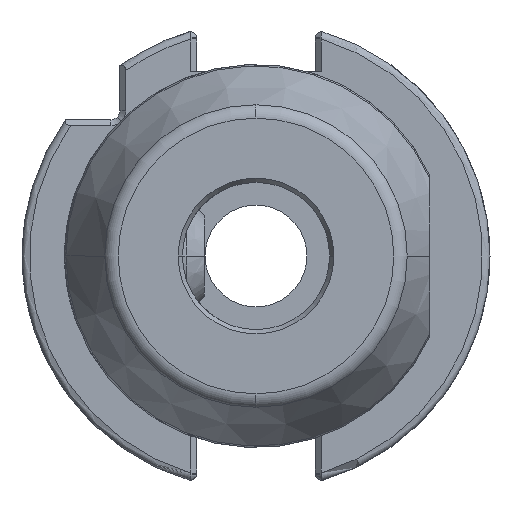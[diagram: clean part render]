
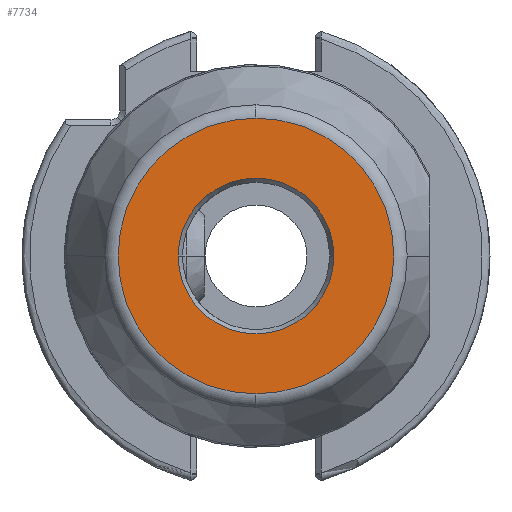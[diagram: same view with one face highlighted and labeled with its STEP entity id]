
A CAD part, front view. The second image highlights one B-rep face of the part: STEP entity #7734.
In plain terms, the highlighted planar face has unit normal (0, -1, 0).
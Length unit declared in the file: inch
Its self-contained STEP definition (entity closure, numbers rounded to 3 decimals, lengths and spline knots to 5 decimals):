
#19 = VERTEX_POINT ( 'NONE', #9267 ) ;
#327 = PLANE ( 'NONE',  #3143 ) ;
#439 = FACE_OUTER_BOUND ( 'NONE', #10438, .T. ) ;
#806 = VERTEX_POINT ( 'NONE', #8165 ) ;
#997 = VERTEX_POINT ( 'NONE', #2696 ) ;
#1420 = DIRECTION ( 'NONE',  ( -1., 0., 0. ) ) ;
#1611 = CIRCLE ( 'NONE', #7936, 0.73724 ) ;
#1645 = EDGE_CURVE ( 'NONE', #5233, #806, #6442, .T. ) ;
#1820 = CIRCLE ( 'NONE', #4146, 0.41643 ) ;
#2615 = AXIS2_PLACEMENT_3D ( 'NONE', #4523, #7137, #8004 ) ;
#2696 = CARTESIAN_POINT ( 'NONE',  ( 0.41643, -2.48031, 0. ) ) ;
#2964 = CIRCLE ( 'NONE', #2615, 0.41643 ) ;
#3143 = AXIS2_PLACEMENT_3D ( 'NONE', #3304, #10943, #4149 ) ;
#3304 = CARTESIAN_POINT ( 'NONE',  ( 0., -2.48031, 0. ) ) ;
#3960 = EDGE_CURVE ( 'NONE', #19, #997, #1820, .T. ) ;
#4146 = AXIS2_PLACEMENT_3D ( 'NONE', #9432, #6807, #5149 ) ;
#4149 = DIRECTION ( 'NONE',  ( 0., 0., -1. ) ) ;
#4220 = CARTESIAN_POINT ( 'NONE',  ( 0., -2.48031, 0. ) ) ;
#4419 = DIRECTION ( 'NONE',  ( 0., 1., 0. ) ) ;
#4523 = CARTESIAN_POINT ( 'NONE',  ( 0., -2.48031, 0. ) ) ;
#4529 = DIRECTION ( 'NONE',  ( -1., 0., 0. ) ) ;
#5149 = DIRECTION ( 'NONE',  ( -1., 0., 0. ) ) ;
#5233 = VERTEX_POINT ( 'NONE', #10574 ) ;
#6143 = ORIENTED_EDGE ( 'NONE', *, *, #1645, .F. ) ;
#6442 = CIRCLE ( 'NONE', #10083, 0.73724 ) ;
#6807 = DIRECTION ( 'NONE',  ( 0., -1., 0. ) ) ;
#7001 = ORIENTED_EDGE ( 'NONE', *, *, #3960, .F. ) ;
#7137 = DIRECTION ( 'NONE',  ( 0., -1., 0. ) ) ;
#7141 = CARTESIAN_POINT ( 'NONE',  ( 0., -2.48031, 0. ) ) ;
#7734 = ADVANCED_FACE ( 'NONE', ( #8201, #439 ), #327, .T. ) ;
#7936 = AXIS2_PLACEMENT_3D ( 'NONE', #7141, #4419, #4529 ) ;
#8004 = DIRECTION ( 'NONE',  ( -1., 0., 0. ) ) ;
#8039 = EDGE_LOOP ( 'NONE', ( #7001, #8805 ) ) ;
#8156 = EDGE_CURVE ( 'NONE', #997, #19, #2964, .T. ) ;
#8165 = CARTESIAN_POINT ( 'NONE',  ( 0., -2.48031, -0.73724 ) ) ;
#8201 = FACE_BOUND ( 'NONE', #8039, .T. ) ;
#8805 = ORIENTED_EDGE ( 'NONE', *, *, #8156, .F. ) ;
#8901 = ORIENTED_EDGE ( 'NONE', *, *, #11228, .F. ) ;
#9267 = CARTESIAN_POINT ( 'NONE',  ( -0.41643, -2.48031, 0. ) ) ;
#9432 = CARTESIAN_POINT ( 'NONE',  ( 0., -2.48031, 0. ) ) ;
#10083 = AXIS2_PLACEMENT_3D ( 'NONE', #4220, #10236, #1420 ) ;
#10236 = DIRECTION ( 'NONE',  ( 0., 1., 0. ) ) ;
#10438 = EDGE_LOOP ( 'NONE', ( #8901, #6143 ) ) ;
#10574 = CARTESIAN_POINT ( 'NONE',  ( 0., -2.48031, 0.73724 ) ) ;
#10943 = DIRECTION ( 'NONE',  ( 0., -1., 0. ) ) ;
#11228 = EDGE_CURVE ( 'NONE', #806, #5233, #1611, .T. ) ;
